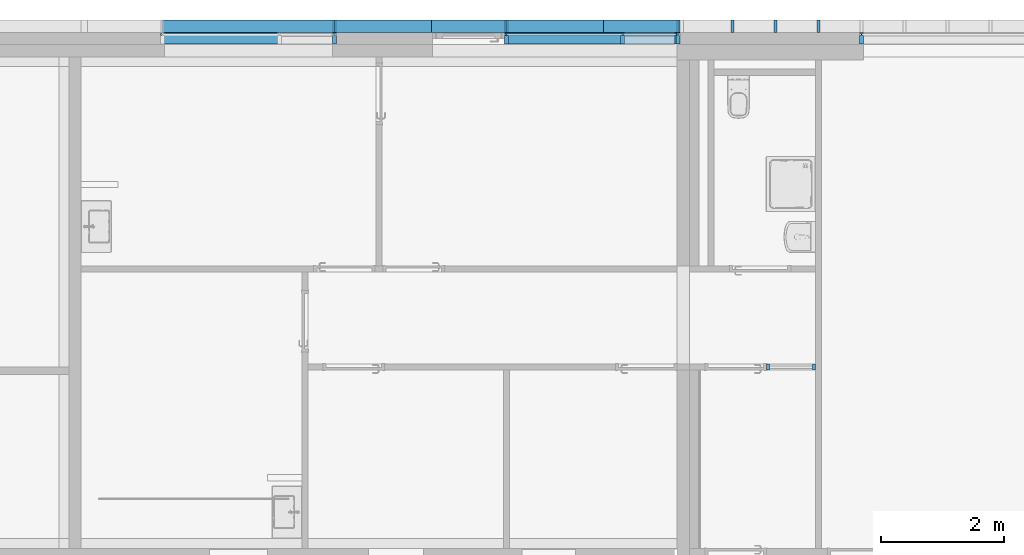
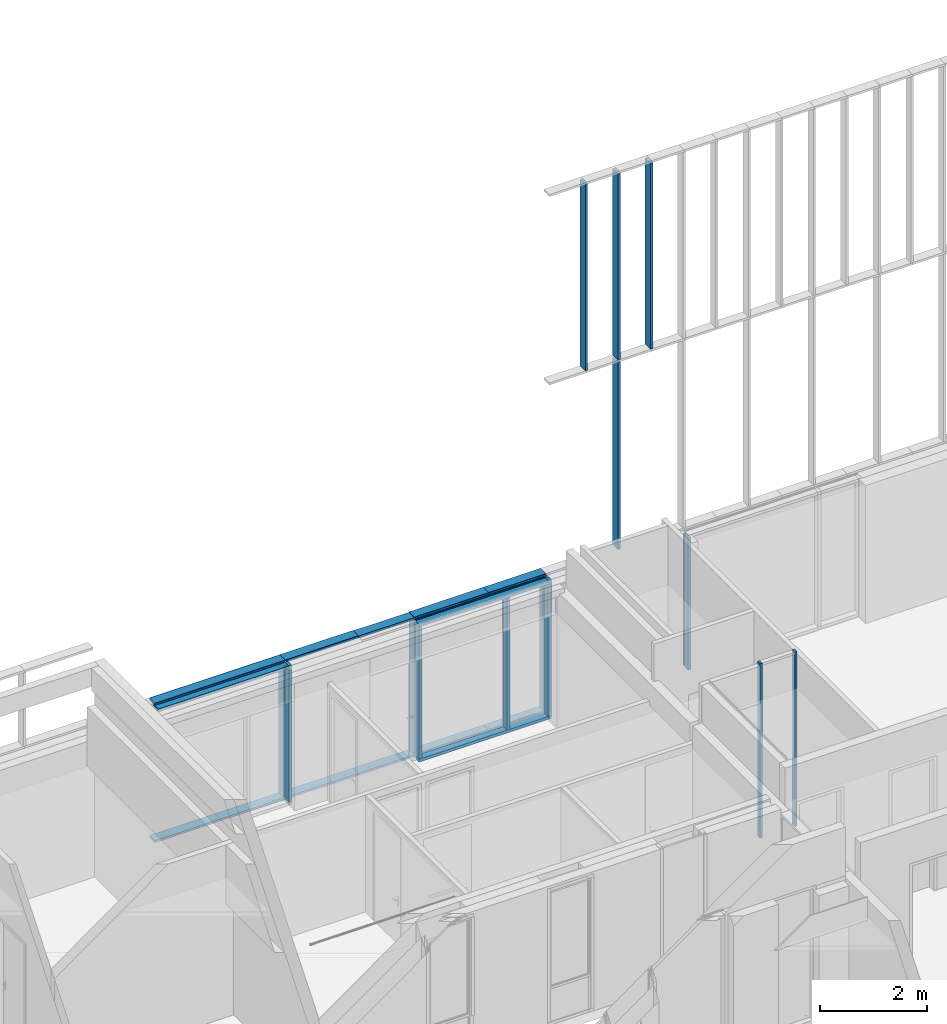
# One storey, part 16 of 240: 34 members, 5 elements without a shape of their own.
"""IFC2X3 building model written with IfcOpenShell, lengths in centimetres."""

from ifc_helpers import new_model, entity, si_unit, converted_unit, derived_unit, direction, frame, origin, origin_2d_with_axis, place, context, subcontext, project, spatial, polyline, rectangle, outline, extrude, source, transform, mapped, material, type_object, type_shapes, element, aggregate, save


model = new_model("IFC2X3")

# Units and contexts
model_context = context("Model", 3, precision=0.001, world=origin(), true_north=direction((6.12303176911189e-17, 1.0)))
body_context = subcontext(model_context, "Body", "Model", "MODEL_VIEW")
ifc_project = project(units=[si_unit("LENGTHUNIT", "METRE", prefix="CENTI"), si_unit("AREAUNIT", "SQUARE_METRE"), si_unit("VOLUMEUNIT", "CUBIC_METRE"), converted_unit("PLANEANGLEUNIT", "DEGREE", entity("IfcRatioMeasure", 0.0174532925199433), si_unit("PLANEANGLEUNIT", "RADIAN"), dimensions=[0, 0, 0, 0, 0, 0, 0]), si_unit("MASSUNIT", "GRAM", prefix="KILO"), derived_unit("MASSDENSITYUNIT", [(si_unit("MASSUNIT", "GRAM", prefix="KILO"), 1), (si_unit("LENGTHUNIT", "METRE"), -3)]), si_unit("TIMEUNIT", "SECOND"), si_unit("FREQUENCYUNIT", "HERTZ"), si_unit("THERMODYNAMICTEMPERATUREUNIT", "DEGREE_CELSIUS"), derived_unit("THERMALTRANSMITTANCEUNIT", [(si_unit("MASSUNIT", "GRAM", prefix="KILO"), 1), (si_unit("THERMODYNAMICTEMPERATUREUNIT", "KELVIN"), -1), (si_unit("TIMEUNIT", "SECOND"), -3)]), derived_unit("VOLUMETRICFLOWRATEUNIT", [(si_unit("LENGTHUNIT", "METRE"), 3), (si_unit("TIMEUNIT", "SECOND"), -1)]), si_unit("ELECTRICCURRENTUNIT", "AMPERE"), si_unit("ELECTRICVOLTAGEUNIT", "VOLT"), si_unit("POWERUNIT", "WATT"), si_unit("FORCEUNIT", "NEWTON", prefix="KILO"), si_unit("ILLUMINANCEUNIT", "LUX"), si_unit("LUMINOUSFLUXUNIT", "LUMEN"), si_unit("LUMINOUSINTENSITYUNIT", "CANDELA"), derived_unit("USERDEFINED", [(si_unit("MASSUNIT", "GRAM", prefix="KILO"), -1), (si_unit("LENGTHUNIT", "METRE"), -2), (si_unit("TIMEUNIT", "SECOND"), 3), (si_unit("LUMINOUSFLUXUNIT", "LUMEN"), 1)]), derived_unit("LINEARVELOCITYUNIT", [(si_unit("LENGTHUNIT", "METRE"), 1), (si_unit("TIMEUNIT", "SECOND"), -1)]), si_unit("PRESSUREUNIT", "PASCAL"), derived_unit("USERDEFINED", [(si_unit("LENGTHUNIT", "METRE"), -2), (si_unit("MASSUNIT", "GRAM", prefix="KILO"), 1), (si_unit("TIMEUNIT", "SECOND"), -2)])], contexts=[model_context])

# Site, building, storey
site_placement = place(None, frame((-2781.94577612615, 7442.24238424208, 0.0)))
site = spatial("IfcSite", under=ifc_project, at=site_placement, Name="Default", CompositionType="ELEMENT")
building_placement = place(site_placement, origin())
building = spatial("IfcBuilding", under=site, at=building_placement, CompositionType="ELEMENT")
storey_placement = place(building_placement, origin())
storey = spatial("IfcBuildingStorey", under=building, at=storey_placement, Name="N00 - COO", CompositionType="ELEMENT", Elevation=0.0)

# Curtain wall, member
curtain_wall_type_1 = type_object("IfcCurtainWallType", Name="Mur-rideau:07 - mur rideau trame 280 cm RDC maintenance", PredefinedType="NOTDEFINED")
curtain_wall_1_placement = place(building_placement, origin())
curtain_wall_1 = element("IfcCurtainWall", 1, at=curtain_wall_1_placement, inside=storey, type_object=curtain_wall_type_1, Name="Mur-rideau:07 - mur rideau trame 280 cm RDC maintenance", ObjectType="Mur-rideau:07 - mur rideau trame 280 cm RDC maintenance")
ifc_material_1 = material(Name="Aluminium")
member_type_1 = type_object("IfcMemberType", Name="150 x 25mm Détails", PredefinedType="MEMBER")
shared_shape_1 = source(origin(), body_context, "Body", "SweptSolid", [
    extrude(outline(polyline([(-13.3333333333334, -3.24999999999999), (0.166666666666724, -3.24999999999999), (0.166666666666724, -0.868749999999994), (3.66666666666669, -0.868749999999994), (3.66666666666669, -3.25), (5.6666666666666, -3.25), (5.6666666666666, 3.24999999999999), (3.66666666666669, 3.24999999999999), (3.66666666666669, 0.86874999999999), (0.166666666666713, 0.86874999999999), (0.166666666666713, 3.25000000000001), (-13.3333333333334, 3.25000000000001), (-13.3333333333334, -3.24999999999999)])), frame((-3.24999999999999, 1.96666666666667, -299.5), z_axis=(0.0, 0.0, 1.0), x_axis=(0.0, -1.0, 0.0)), (0.0, 0.0, 1.0), 299.5),
])
type_shapes(member_type_1, [shared_shape_1])
member_1_placement = place(building_placement, frame((-8990.24987766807, 26.2000000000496, 306.0), z_axis=(0.0, 0.0, 1.0), x_axis=(-1.0, 0.0, 0.0)))
member_1 = element("IfcMember", 2, at=member_1_placement, type_object=member_type_1, material=ifc_material_1, Name="Meneau rectangulaire:150 x 25mm Détails", ObjectType="Meneau rectangulaire:150 x 25mm Détails", context=body_context, shape_type="MappedRepresentation", body=[
    mapped(shared_shape_1, transform((0.0, 0.0, 0.0), scale=1.0)),
])

# Curtain wall, members
curtain_wall_type_2 = type_object("IfcCurtainWallType", Name="Mur-rideau:07 - mur rideau trame 280 cm", PredefinedType="NOTDEFINED")
curtain_wall_2_placement = place(building_placement, origin())
curtain_wall_2 = element("IfcCurtainWall", 3, at=curtain_wall_2_placement, inside=storey, type_object=curtain_wall_type_2, Name="Mur-rideau:07 - mur rideau trame 280 cm", ObjectType="Mur-rideau:07 - mur rideau trame 280 cm")
member_2_placement = place(building_placement, frame((-8431.24987766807, 26.3000000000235, 306.0), z_axis=(0.0, 0.0, 1.0), x_axis=(-1.0, 0.0, 0.0)))
member_2 = element("IfcMember", 4, at=member_2_placement, type_object=member_type_1, material=ifc_material_1, Name="Meneau rectangulaire:150 x 25mm Détails", ObjectType="Meneau rectangulaire:150 x 25mm Détails", context=body_context, shape_type="MappedRepresentation", body=[
    mapped(shared_shape_1, transform((0.0, 0.0, 0.0), scale=1.0)),
])
member_type_2 = type_object("IfcMemberType", Name="150 x 25mm Détails", PredefinedType="MEMBER")
shared_shape_2 = source(origin(), body_context, "Body", "SweptSolid", [
    extrude(outline(polyline([(-13.3333333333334, -3.25000000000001), (0.166666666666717, -3.25000000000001), (0.166666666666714, -0.86874999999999), (3.66666666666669, -0.86874999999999), (3.66666666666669, -3.24999999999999), (5.6666666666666, -3.24999999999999), (5.6666666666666, 3.25), (3.66666666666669, 3.25), (3.66666666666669, 0.868749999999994), (0.166666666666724, 0.868749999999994), (0.166666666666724, 3.25000000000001), (-13.3333333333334, 3.24999999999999), (-13.3333333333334, -3.25000000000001)])), frame((-3.24999999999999, 1.96666666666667, -299.5), z_axis=(0.0, 0.0, 1.0), x_axis=(0.0, -1.0, 0.0)), (0.0, 0.0, 1.0), 299.5),
])
type_shapes(member_type_2, [shared_shape_2])
member_3_placement = place(building_placement, frame((-8514.74987766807, 26.3000000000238, 6.49999999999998), z_axis=(0.0, 0.0, -1.0), x_axis=(1.0, 0.0, 0.0)))
member_3 = element("IfcMember", 5, at=member_3_placement, type_object=member_type_2, material=ifc_material_1, Name="Meneau rectangulaire:150 x 25mm Détails", ObjectType="Meneau rectangulaire:150 x 25mm Détails", context=body_context, shape_type="MappedRepresentation", body=[
    mapped(shared_shape_2, transform((0.0, 0.0, 0.0), scale=1.0)),
])

# Curtain wall, member
curtain_wall_3_placement = place(building_placement, origin())
curtain_wall_3 = element("IfcCurtainWall", 6, at=curtain_wall_3_placement, inside=storey, type_object=curtain_wall_type_2, Name="Mur-rideau:07 - mur rideau trame 280 cm", ObjectType="Mur-rideau:07 - mur rideau trame 280 cm")
member_type_3 = type_object("IfcMemberType", Name="150 x 25mm Détails", PredefinedType="MEMBER")
shared_shape_3 = source(origin(), body_context, "Body", "SweptSolid", [
    extrude(outline(polyline([(-13.3333333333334, -3.24999999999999), (0.166666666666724, -3.24999999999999), (0.166666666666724, -0.868749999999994), (3.66666666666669, -0.868749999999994), (3.66666666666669, -3.25), (5.6666666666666, -3.25), (5.6666666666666, 3.24999999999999), (3.66666666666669, 3.24999999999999), (3.66666666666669, 0.86874999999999), (0.166666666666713, 0.86874999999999), (0.166666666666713, 3.25000000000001), (-13.3333333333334, 3.25000000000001), (-13.3333333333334, -3.24999999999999)])), frame((-3.24999999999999, 1.96666666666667, -300.0), z_axis=(0.0, 0.0, 1.0), x_axis=(0.0, -1.0, 0.0)), (0.0, 0.0, 1.0), 300.000000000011),
])
type_shapes(member_type_3, [shared_shape_3])
member_4_placement = place(building_placement, frame((-8132.74987760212, 26.2000000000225, 306.5), z_axis=(0.0, 0.0, 1.0), x_axis=(-1.0, 0.0, 0.0)))
member_4 = element("IfcMember", 7, at=member_4_placement, type_object=member_type_3, material=ifc_material_1, Name="Meneau rectangulaire:150 x 25mm Détails", ObjectType="Meneau rectangulaire:150 x 25mm Détails", context=body_context, shape_type="MappedRepresentation", body=[
    mapped(shared_shape_3, transform((0.0, 0.0, 0.0), scale=1.0)),
])
aggregate(curtain_wall_3, [member_4])

# Member
member_5_placement = place(building_placement, frame((-8710.24987766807, 26.3000000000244, 306.5), z_axis=(0.0, 0.0, 1.0), x_axis=(-1.0, 0.0, 0.0)))
member_5 = element("IfcMember", 8, at=member_5_placement, type_object=member_type_3, material=ifc_material_1, Name="Meneau rectangulaire:150 x 25mm Détails", ObjectType="Meneau rectangulaire:150 x 25mm Détails", context=body_context, shape_type="MappedRepresentation", body=[
    mapped(shared_shape_3, transform((0.0, 0.0, 0.0), scale=1.0)),
])

member_type_4 = type_object("IfcMemberType", Name="150 x 25mm Détails", PredefinedType="MEMBER")
shared_shape_4 = source(origin(), body_context, "Body", "SweptSolid", [
    extrude(outline(polyline([(-13.3333333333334, -3.25000000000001), (0.166666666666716, -3.25000000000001), (0.166666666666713, -0.86874999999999), (3.66666666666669, -0.86874999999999), (3.66666666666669, -3.24999999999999), (5.66666666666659, -3.24999999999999), (5.66666666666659, 3.25), (3.66666666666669, 3.25), (3.66666666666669, 0.868749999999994), (0.166666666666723, 0.868749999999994), (0.166666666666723, 3.25000000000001), (-13.3333333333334, 3.24999999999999), (-13.3333333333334, -3.25000000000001)])), frame((0.0, 1.96666666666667, -300.0), z_axis=(0.0, 0.0, 1.0), x_axis=(0.0, -1.0, 0.0)), (0.0, 0.0, 1.0), 300.000000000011),
])
type_shapes(member_type_4, [shared_shape_4])
member_6_placement = place(building_placement, frame((-8430.24987763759, 26.3000000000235, 6.49999999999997), z_axis=(0.0, 0.0, -1.0), x_axis=(1.0, 0.0, 0.0)))
member_6 = element("IfcMember", 9, at=member_6_placement, type_object=member_type_4, material=ifc_material_1, Name="Meneau rectangulaire:150 x 25mm Détails", ObjectType="Meneau rectangulaire:150 x 25mm Détails", context=body_context, shape_type="MappedRepresentation", body=[
    mapped(shared_shape_4, transform((0.0, 0.0, 0.0), scale=1.0)),
])

member_type_5 = type_object("IfcMemberType", Name="150 x 25mm Détails", PredefinedType="MEMBER")
shared_shape_5 = source(origin(), body_context, "Body", "SweptSolid", [
    extrude(outline(polyline([(-13.3333333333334, -3.25000000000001), (0.166666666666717, -3.25000000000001), (0.166666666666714, -0.86874999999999), (3.66666666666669, -0.86874999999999), (3.66666666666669, -3.24999999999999), (5.6666666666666, -3.24999999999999), (5.6666666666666, 3.25), (3.66666666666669, 3.25), (3.66666666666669, 0.868749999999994), (0.166666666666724, 0.868749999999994), (0.166666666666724, 3.25000000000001), (-13.3333333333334, 3.24999999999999), (-13.3333333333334, -3.25000000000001)])), frame((-3.24999999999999, 1.96666666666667, -316.500000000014), z_axis=(0.0, 0.0, 1.0), x_axis=(0.0, -1.0, 0.0)), (0.0, 0.0, 1.0), 316.500000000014),
])
type_shapes(member_type_5, [shared_shape_5])
member_7_placement = place(building_placement, frame((-8983.74987766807, 26.2000000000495, 0.0), z_axis=(0.0, 0.0, -1.0), x_axis=(1.0, 0.0, 0.0)))
member_7 = element("IfcMember", 10, at=member_7_placement, type_object=member_type_5, material=ifc_material_1, Name="Meneau rectangulaire:150 x 25mm Détails", ObjectType="Meneau rectangulaire:150 x 25mm Détails", context=body_context, shape_type="MappedRepresentation", body=[
    mapped(shared_shape_5, transform((0.0, 0.0, 0.0), scale=1.0)),
])

member_type_6 = type_object("IfcMemberType", Name="150 x 25mm Détails", PredefinedType="MEMBER")
shared_shape_6 = source(origin(), body_context, "Body", "SweptSolid", [
    extrude(outline(polyline([(-13.3333333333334, -3.25000000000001), (0.166666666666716, -3.25000000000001), (0.166666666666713, -0.86874999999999), (3.66666666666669, -0.86874999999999), (3.66666666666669, -3.24999999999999), (5.66666666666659, -3.24999999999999), (5.66666666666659, 3.25), (3.66666666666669, 3.25), (3.66666666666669, 0.868749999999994), (0.166666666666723, 0.868749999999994), (0.166666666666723, 3.25000000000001), (-13.3333333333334, 3.24999999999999), (-13.3333333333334, -3.25000000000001)])), frame((-3.24999999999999, 1.96666666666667, -283.25000003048), z_axis=(0.0, 0.0, 1.0), x_axis=(0.0, -1.0, 0.0)), (0.0, 0.0, 1.0), 283.25000003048),
])
type_shapes(member_type_6, [shared_shape_6])
member_8_placement = place(building_placement, frame((-8986.99987763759, 26.2000000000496, 316.500000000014), z_axis=(1.0, 0.0, 0.0), x_axis=(0.0, 0.0, 1.0)))
member_8 = element("IfcMember", 11, at=member_8_placement, type_object=member_type_6, material=ifc_material_1, Name="Meneau rectangulaire:150 x 25mm Détails", ObjectType="Meneau rectangulaire:150 x 25mm Détails", context=body_context, shape_type="MappedRepresentation", body=[
    mapped(shared_shape_6, transform((0.0, 0.0, 0.0), scale=1.0)),
])

aggregate(curtain_wall_1, [member_7, member_1, member_8])

member_9_placement = place(building_placement, frame((-8426.99987763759, 26.3000000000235, 313.0), z_axis=(1.0, 0.0, 0.0), x_axis=(0.0, 0.0, 1.0)))
member_9 = element("IfcMember", 12, at=member_9_placement, type_object=member_type_6, material=ifc_material_1, Name="Meneau rectangulaire:150 x 25mm Détails", ObjectType="Meneau rectangulaire:150 x 25mm Détails", context=body_context, shape_type="MappedRepresentation", body=[
    mapped(shared_shape_6, transform((0.0, 0.0, 0.0), scale=1.0)),
])

# Curtain wall, members
curtain_wall_type_3 = type_object("IfcCurtainWallType", Name="Mur-rideau:Epines - 200x50mm", PredefinedType="NOTDEFINED")
curtain_wall_4_placement = place(building_placement, origin())
curtain_wall_4 = element("IfcCurtainWall", 13, at=curtain_wall_4_placement, inside=storey, type_object=curtain_wall_type_3, Name="Mur-rideau:Epines - 200x50mm", ObjectType="Mur-rideau:Epines - 200x50mm")
member_type_7 = type_object("IfcMemberType", Name="200x50 mm", PredefinedType="MEMBER")
shared_shape_7 = source(origin(), body_context, "Body", "SweptSolid", [
    extrude(rectangle(XDim=20.0, YDim=5.0, at=origin_2d_with_axis()), frame((0.0, 0.0, -423.0), z_axis=(0.0, 0.0, 1.0), x_axis=(0.0, -1.0, 0.0)), (0.0, 0.0, 1.0), 423.000000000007),
])
type_shapes(member_type_7, [shared_shape_7])
member_10_placement = place(building_placement, frame((-8269.4998776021, 40.0, 748.0), z_axis=(0.0, 0.0, -1.0), x_axis=(1.0, 0.0, 0.0)))
member_10 = element("IfcMember", 14, at=member_10_placement, type_object=member_type_7, material=ifc_material_1, Name="Meneau rectangulaire:200x50 mm", ObjectType="Meneau rectangulaire:200x50 mm", context=body_context, shape_type="MappedRepresentation", body=[
    mapped(shared_shape_7, transform((0.0, 0.0, 0.0), scale=1.0)),
])
member_11_placement = place(building_placement, frame((-8199.49987760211, 40.0, 748.0), z_axis=(0.0, 0.0, -1.0), x_axis=(1.0, 0.0, 0.0)))
member_11 = element("IfcMember", 15, at=member_11_placement, type_object=member_type_7, material=ifc_material_1, Name="Meneau rectangulaire:200x50 mm", ObjectType="Meneau rectangulaire:200x50 mm", context=body_context, shape_type="MappedRepresentation", body=[
    mapped(shared_shape_7, transform((0.0, 0.0, 0.0), scale=1.0)),
])
member_12_placement = place(building_placement, frame((-8339.4998776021, 40.0, 748.0), z_axis=(0.0, 0.0, -1.0), x_axis=(1.0, 0.0, 0.0)))
member_12 = element("IfcMember", 16, at=member_12_placement, type_object=member_type_7, material=ifc_material_1, Name="Meneau rectangulaire:200x50 mm", ObjectType="Meneau rectangulaire:200x50 mm", context=body_context, shape_type="MappedRepresentation", body=[
    mapped(shared_shape_7, transform((0.0, 0.0, 0.0), scale=1.0)),
])
member_type_8 = type_object("IfcMemberType", Name="200x50 mm", PredefinedType="MEMBER")
shared_shape_8 = source(origin(), body_context, "Body", "SweptSolid", [
    extrude(rectangle(XDim=20.0, YDim=5.0, at=origin_2d_with_axis()), frame((0.0, 0.0, -425.5), z_axis=(0.0, 0.0, 1.0), x_axis=(0.0, -1.0, 0.0)), (0.0, 0.0, 1.0), 425.5),
])
type_shapes(member_type_8, [shared_shape_8])
member_13_placement = place(building_placement, frame((-8269.4998776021, 40.0, 317.5), z_axis=(0.0, 0.0, -1.0), x_axis=(1.0, 0.0, 0.0)))
member_13 = element("IfcMember", 17, at=member_13_placement, type_object=member_type_8, material=ifc_material_1, Name="Meneau rectangulaire:200x50 mm", ObjectType="Meneau rectangulaire:200x50 mm", context=body_context, shape_type="MappedRepresentation", body=[
    mapped(shared_shape_8, transform((0.0, 0.0, 0.0), scale=1.0)),
])
member_type_9 = type_object("IfcMemberType", Name="200x50 mm", PredefinedType="MEMBER")
shared_shape_9 = source(origin(), body_context, "Body", "SweptSolid", [
    extrude(rectangle(XDim=20.0, YDim=5.0, at=origin_2d_with_axis()), frame((0.0, 0.0, -307.5), z_axis=(0.0, 0.0, 1.0), x_axis=(0.0, -1.0, 0.0)), (0.0, 0.0, 1.0), 307.5),
])
type_shapes(member_type_9, [shared_shape_9])
member_14_placement = place(building_placement, frame((-8426.99987766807, 40.0, 5.0), z_axis=(0.0, 0.0, -1.0), x_axis=(1.0, 0.0, 0.0)))
member_14 = element("IfcMember", 18, at=member_14_placement, type_object=member_type_9, material=ifc_material_1, Name="Meneau rectangulaire:200x50 mm", ObjectType="Meneau rectangulaire:200x50 mm", context=body_context, shape_type="MappedRepresentation", body=[
    mapped(shared_shape_9, transform((0.0, 0.0, 0.0), scale=1.0)),
])
member_15_placement = place(building_placement, frame((-8706.99987766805, 40.0, 5.0), z_axis=(0.0, 0.0, -1.0), x_axis=(1.0, 0.0, 0.0)))
member_15 = element("IfcMember", 19, at=member_15_placement, type_object=member_type_9, material=ifc_material_1, Name="Meneau rectangulaire:200x50 mm", ObjectType="Meneau rectangulaire:200x50 mm", context=body_context, shape_type="MappedRepresentation", body=[
    mapped(shared_shape_9, transform((0.0, 0.0, 0.0), scale=1.0)),
])
member_16_placement = place(building_placement, frame((-8986.99987766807, 40.0, 5.0), z_axis=(0.0, 0.0, -1.0), x_axis=(1.0, 0.0, 0.0)))
member_16 = element("IfcMember", 20, at=member_16_placement, type_object=member_type_9, material=ifc_material_1, Name="Meneau rectangulaire:200x50 mm", ObjectType="Meneau rectangulaire:200x50 mm", context=body_context, shape_type="MappedRepresentation", body=[
    mapped(shared_shape_9, transform((0.0, 0.0, 0.0), scale=1.0)),
])
member_type_10 = type_object("IfcMemberType", Name="200x50 mm", PredefinedType="MEMBER")
shared_shape_10 = source(origin(), body_context, "Body", "SweptSolid", [
    extrude(rectangle(XDim=20.0, YDim=5.0, at=origin_2d_with_axis()), frame((-2.5, 0.0, -157.50000006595), z_axis=(0.0, 0.0, 1.0), x_axis=(0.0, -1.0, 0.0)), (0.0, 0.0, 1.0), 157.50000006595),
])
type_shapes(member_type_10, [shared_shape_10])
member_17_placement = place(building_placement, frame((-8986.99987766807, 40.0, 0.0), z_axis=(-1.0, 0.0, 0.0), x_axis=(0.0, 0.0, -1.0)))
member_17 = element("IfcMember", 21, at=member_17_placement, type_object=member_type_10, material=ifc_material_1, Name="Meneau rectangulaire:200x50 mm", ObjectType="Meneau rectangulaire:200x50 mm", context=body_context, shape_type="MappedRepresentation", body=[
    mapped(shared_shape_10, transform((0.0, 0.0, 0.0), scale=1.0)),
])
member_18_placement = place(building_placement, frame((-8706.99987766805, 40.0, 0.0), z_axis=(-1.0, 0.0, 0.0), x_axis=(0.0, 0.0, -1.0)))
member_18 = element("IfcMember", 22, at=member_18_placement, type_object=member_type_10, material=ifc_material_1, Name="Meneau rectangulaire:200x50 mm", ObjectType="Meneau rectangulaire:200x50 mm", context=body_context, shape_type="MappedRepresentation", body=[
    mapped(shared_shape_10, transform((0.0, 0.0, 0.0), scale=1.0)),
])
member_type_11 = type_object("IfcMemberType", Name="200x50 mm", PredefinedType="MEMBER")
shared_shape_11 = source(origin(), body_context, "Body", "SweptSolid", [
    extrude(rectangle(XDim=20.0, YDim=5.0, at=origin_2d_with_axis()), frame((-2.5, 0.0, -122.499999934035), z_axis=(0.0, 0.0, 1.0), x_axis=(0.0, -1.0, 0.0)), (0.0, 0.0, 1.0), 122.499999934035),
])
type_shapes(member_type_11, [shared_shape_11])
member_19_placement = place(building_placement, frame((-8706.99987766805, 40.0, 316.500000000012), z_axis=(1.0, 0.0, 0.0), x_axis=(0.0, 0.0, 1.0)))
member_19 = element("IfcMember", 23, at=member_19_placement, type_object=member_type_11, material=ifc_material_1, Name="Meneau rectangulaire:200x50 mm", ObjectType="Meneau rectangulaire:200x50 mm", context=body_context, shape_type="MappedRepresentation", body=[
    mapped(shared_shape_11, transform((0.0, 0.0, 0.0), scale=1.0)),
])
member_20_placement = place(building_placement, frame((-8426.99987766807, 40.0, 316.500000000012), z_axis=(1.0, 0.0, 0.0), x_axis=(0.0, 0.0, 1.0)))
member_20 = element("IfcMember", 24, at=member_20_placement, type_object=member_type_11, material=ifc_material_1, Name="Meneau rectangulaire:200x50 mm", ObjectType="Meneau rectangulaire:200x50 mm", context=body_context, shape_type="MappedRepresentation", body=[
    mapped(shared_shape_11, transform((0.0, 0.0, 0.0), scale=1.0)),
])
member_type_12 = type_object("IfcMemberType", Name="200x50 mm", PredefinedType="MEMBER")
shared_shape_12 = source(origin(), body_context, "Body", "SweptSolid", [
    extrude(rectangle(XDim=20.0, YDim=5.0, at=origin_2d_with_axis()), frame((-2.5, 0.0, -280.0), z_axis=(0.0, 0.0, 1.0), x_axis=(0.0, -1.0, 0.0)), (0.0, 0.0, 1.0), 280.0),
])
type_shapes(member_type_12, [shared_shape_12])
member_21_placement = place(building_placement, frame((-9266.99987766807, 40.0, 0.0), z_axis=(-1.0, 0.0, 0.0), x_axis=(0.0, 0.0, -1.0)))
member_21 = element("IfcMember", 25, at=member_21_placement, type_object=member_type_12, material=ifc_material_1, Name="Meneau rectangulaire:200x50 mm", ObjectType="Meneau rectangulaire:200x50 mm", context=body_context, shape_type="MappedRepresentation", body=[
    mapped(shared_shape_12, transform((0.0, 0.0, 0.0), scale=1.0)),
])
member_type_13 = type_object("IfcMemberType", Name="200x50 mm", PredefinedType="MEMBER")
shared_shape_13 = source(origin(), body_context, "Body", "SweptSolid", [
    extrude(rectangle(XDim=20.0, YDim=5.0, at=origin_2d_with_axis()), frame((0.0, 0.0, -280.0), z_axis=(0.0, 0.0, 1.0), x_axis=(0.0, -1.0, 0.0)), (0.0, 0.0, 1.0), 280.0),
])
type_shapes(member_type_13, [shared_shape_13])
member_22_placement = place(building_placement, frame((-8986.99987766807, 40.0, 315.0), z_axis=(1.0, 0.0, 0.0), x_axis=(0.0, 0.0, 1.0)))
member_22 = element("IfcMember", 26, at=member_22_placement, type_object=member_type_13, material=ifc_material_1, Name="Meneau rectangulaire:200x50 mm", ObjectType="Meneau rectangulaire:200x50 mm", context=body_context, shape_type="MappedRepresentation", body=[
    mapped(shared_shape_13, transform((0.0, 0.0, 0.0), scale=1.0)),
])
member_type_14 = type_object("IfcMemberType", Name="200x50 mm", PredefinedType="MEMBER")
shared_shape_14 = source(origin(), body_context, "Body", "SweptSolid", [
    extrude(rectangle(XDim=20.0, YDim=5.0, at=origin_2d_with_axis()), frame((-2.5, 0.0, -280.0), z_axis=(0.0, 0.0, 1.0), x_axis=(0.0, -1.0, 0.0)), (0.0, 0.0, 1.0), 280.0),
])
type_shapes(member_type_14, [shared_shape_14])
member_23_placement = place(building_placement, frame((-8986.99987766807, 40.0, 316.500000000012), z_axis=(1.0, 0.0, 0.0), x_axis=(0.0, 0.0, 1.0)))
member_23 = element("IfcMember", 27, at=member_23_placement, type_object=member_type_14, material=ifc_material_1, Name="Meneau rectangulaire:200x50 mm", ObjectType="Meneau rectangulaire:200x50 mm", context=body_context, shape_type="MappedRepresentation", body=[
    mapped(shared_shape_14, transform((0.0, 0.0, 0.0), scale=1.0)),
])
member_type_15 = type_object("IfcMemberType", Name="200x50 mm", PredefinedType="MEMBER")
shared_shape_15 = source(origin(), body_context, "Body", "SweptSolid", [
    extrude(rectangle(XDim=20.0, YDim=5.0, at=origin_2d_with_axis()), frame((0.0, 0.0, -157.500000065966), z_axis=(0.0, 0.0, 1.0), x_axis=(0.0, -1.0, 0.0)), (0.0, 0.0, 1.0), 157.500000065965),
])
type_shapes(member_type_15, [shared_shape_15])
member_24_placement = place(building_placement, frame((-8829.4998776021, 40.0, 315.0), z_axis=(1.0, 0.0, 0.0), x_axis=(0.0, 0.0, 1.0)))
member_24 = element("IfcMember", 28, at=member_24_placement, type_object=member_type_15, material=ifc_material_1, Name="Meneau rectangulaire:200x50 mm", ObjectType="Meneau rectangulaire:200x50 mm", context=body_context, shape_type="MappedRepresentation", body=[
    mapped(shared_shape_15, transform((0.0, 0.0, 0.0), scale=1.0)),
])
member_type_16 = type_object("IfcMemberType", Name="200x50 mm", PredefinedType="MEMBER")
shared_shape_16 = source(origin(), body_context, "Body", "SweptSolid", [
    extrude(rectangle(XDim=20.0, YDim=5.0, at=origin_2d_with_axis()), frame((0.0, 0.0, -160.0), z_axis=(0.0, 0.0, 1.0), x_axis=(0.0, -1.0, 0.0)), (0.0, 0.0, 1.0), 160.000000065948),
])
type_shapes(member_type_16, [shared_shape_16])
member_25_placement = place(building_placement, frame((-8549.4998776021, 40.0, 315.0), z_axis=(1.0, 0.0, 0.0), x_axis=(0.0, 0.0, 1.0)))
member_25 = element("IfcMember", 29, at=member_25_placement, type_object=member_type_16, material=ifc_material_1, Name="Meneau rectangulaire:200x50 mm", ObjectType="Meneau rectangulaire:200x50 mm", context=body_context, shape_type="MappedRepresentation", body=[
    mapped(shared_shape_16, transform((0.0, 0.0, 0.0), scale=1.0)),
])
member_type_17 = type_object("IfcMemberType", Name="200x50 mm", PredefinedType="MEMBER")
shared_shape_17 = source(origin(), body_context, "Body", "SweptSolid", [
    extrude(rectangle(XDim=20.0, YDim=5.0, at=origin_2d_with_axis()), frame((-2.5, 0.0, -157.500000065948), z_axis=(0.0, 0.0, 1.0), x_axis=(0.0, -1.0, 0.0)), (0.0, 0.0, 1.0), 157.500000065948),
])
type_shapes(member_type_17, [shared_shape_17])
member_26_placement = place(building_placement, frame((-8549.4998776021, 40.0, 316.500000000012), z_axis=(1.0, 0.0, 0.0), x_axis=(0.0, 0.0, 1.0)))
member_26 = element("IfcMember", 30, at=member_26_placement, type_object=member_type_17, material=ifc_material_1, Name="Meneau rectangulaire:200x50 mm", ObjectType="Meneau rectangulaire:200x50 mm", context=body_context, shape_type="MappedRepresentation", body=[
    mapped(shared_shape_17, transform((0.0, 0.0, 0.0), scale=1.0)),
])
member_27_placement = place(building_placement, frame((-8829.4998776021, 40.0, 316.500000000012), z_axis=(1.0, 0.0, 0.0), x_axis=(0.0, 0.0, 1.0)))
member_27 = element("IfcMember", 31, at=member_27_placement, type_object=member_type_17, material=ifc_material_1, Name="Meneau rectangulaire:200x50 mm", ObjectType="Meneau rectangulaire:200x50 mm", context=body_context, shape_type="MappedRepresentation", body=[
    mapped(shared_shape_17, transform((0.0, 0.0, 0.0), scale=1.0)),
])
member_type_18 = type_object("IfcMemberType", Name="200x50 mm", PredefinedType="MEMBER")
shared_shape_18 = source(origin(), body_context, "Body", "SweptSolid", [
    extrude(rectangle(XDim=20.0, YDim=5.0, at=origin_2d_with_axis()), frame((-2.5, 0.0, -122.499999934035), z_axis=(0.0, 0.0, 1.0), x_axis=(0.0, -1.0, 0.0)), (0.0, 0.0, 1.0), 122.499999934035),
])
type_shapes(member_type_18, [shared_shape_18])
member_28_placement = place(building_placement, frame((-8549.4998776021, 40.0, 0.0), z_axis=(-1.0, 0.0, 0.0), x_axis=(0.0, 0.0, -1.0)))
member_28 = element("IfcMember", 32, at=member_28_placement, type_object=member_type_18, material=ifc_material_1, Name="Meneau rectangulaire:200x50 mm", ObjectType="Meneau rectangulaire:200x50 mm", context=body_context, shape_type="MappedRepresentation", body=[
    mapped(shared_shape_18, transform((0.0, 0.0, 0.0), scale=1.0)),
])
member_29_placement = place(building_placement, frame((-8829.4998776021, 40.0, 0.0), z_axis=(-1.0, 0.0, 0.0), x_axis=(0.0, 0.0, -1.0)))
member_29 = element("IfcMember", 33, at=member_29_placement, type_object=member_type_18, material=ifc_material_1, Name="Meneau rectangulaire:200x50 mm", ObjectType="Meneau rectangulaire:200x50 mm", context=body_context, shape_type="MappedRepresentation", body=[
    mapped(shared_shape_18, transform((0.0, 0.0, 0.0), scale=1.0)),
])
member_type_19 = type_object("IfcMemberType", Name="200x50 mm", PredefinedType="MEMBER")
shared_shape_19 = source(origin(), body_context, "Body", "SweptSolid", [
    extrude(rectangle(XDim=20.0, YDim=5.0, at=origin_2d_with_axis()), frame((0.0, 0.0, -122.499999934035), z_axis=(0.0, 0.0, 1.0), x_axis=(0.0, -1.0, 0.0)), (0.0, 0.0, 1.0), 122.499999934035),
])
type_shapes(member_type_19, [shared_shape_19])
member_30_placement = place(building_placement, frame((-8426.99987766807, 40.0, 315.0), z_axis=(1.0, 0.0, 0.0), x_axis=(0.0, 0.0, 1.0)))
member_30 = element("IfcMember", 34, at=member_30_placement, type_object=member_type_19, material=ifc_material_1, Name="Meneau rectangulaire:200x50 mm", ObjectType="Meneau rectangulaire:200x50 mm", context=body_context, shape_type="MappedRepresentation", body=[
    mapped(shared_shape_19, transform((0.0, 0.0, 0.0), scale=1.0)),
])
aggregate(curtain_wall_4, [member_13, member_10, member_11, member_12, member_21, member_22, member_23, member_17, member_24, member_19, member_18, member_25, member_14, member_15, member_16, member_26, member_28, member_30, member_27, member_29, member_20])

curtain_wall_type_4 = type_object("IfcCurtainWallType", PredefinedType="NOTDEFINED")
curtain_wall_5_placement = place(building_placement, origin())
curtain_wall_5 = element("IfcCurtainWall", 35, at=curtain_wall_5_placement, inside=storey, type_object=curtain_wall_type_4)
ifc_material_2 = material(Name="Plastique, blanc opaque")
member_type_20 = type_object("IfcMemberType", Name="100 x 50mm", PredefinedType="MEMBER")
shared_shape_20 = source(origin(), body_context, "Body", "SweptSolid", [
    extrude(rectangle(XDim=10.0, YDim=5.0, at=origin_2d_with_axis()), frame((-2.5, 0.0, -396.0), z_axis=(0.0, 0.0, 1.0), x_axis=(0.0, -1.0, 0.0)), (0.0, 0.0, 1.0), 396.0),
])
type_shapes(member_type_20, [shared_shape_20])
member_31_placement = place(building_placement, frame((-8204.49987760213, -515.0, 0.0), z_axis=(0.0, 0.0, -1.0), x_axis=(1.0, 0.0, 0.0)))
member_31 = element("IfcMember", 36, at=member_31_placement, type_object=member_type_20, material=ifc_material_2, Name="Meneau rectangulaire:100 x 50mm", ObjectType="Meneau rectangulaire:100 x 50mm", context=body_context, shape_type="MappedRepresentation", body=[
    mapped(shared_shape_20, transform((0.0, 0.0, 0.0), scale=1.0)),
])
member_type_21 = type_object("IfcMemberType", Name="100 x 50mm", PredefinedType="MEMBER")
shared_shape_21 = source(origin(), body_context, "Body", "SweptSolid", [
    extrude(rectangle(XDim=10.0, YDim=5.0, at=origin_2d_with_axis()), frame((-2.5, 0.0, -396.0), z_axis=(0.0, 0.0, 1.0), x_axis=(0.0, -1.0, 0.0)), (0.0, 0.0, 1.0), 396.0),
])
type_shapes(member_type_21, [shared_shape_21])
member_32_placement = place(building_placement, frame((-8284.19987766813, -515.0, 396.0), z_axis=(0.0, 0.0, 1.0), x_axis=(-1.0, 0.0, 0.0)))
member_32 = element("IfcMember", 37, at=member_32_placement, type_object=member_type_21, material=ifc_material_2, Name="Meneau rectangulaire:100 x 50mm", ObjectType="Meneau rectangulaire:100 x 50mm", context=body_context, shape_type="MappedRepresentation", body=[
    mapped(shared_shape_21, transform((0.0, 0.0, 0.0), scale=1.0)),
])
aggregate(curtain_wall_5, [member_31, member_32])

# Member
member_type_22 = type_object("IfcMemberType", Name="150 x 25mm Détails", PredefinedType="MEMBER")
shared_shape_22 = source(origin(), body_context, "Body", "SweptSolid", [
    extrude(outline(polyline([(-13.3333333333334, -3.24999999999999), (0.166666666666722, -3.24999999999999), (0.166666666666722, -0.868749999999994), (3.66666666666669, -0.868749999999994), (3.66666666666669, -3.25), (5.66666666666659, -3.25), (5.66666666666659, 3.24999999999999), (3.66666666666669, 3.24999999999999), (3.66666666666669, 0.86874999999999), (0.166666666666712, 0.86874999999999), (0.166666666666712, 3.25000000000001), (-13.3333333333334, 3.25000000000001), (-13.3333333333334, -3.24999999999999)])), frame((-3.24999999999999, 1.96666666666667, -283.25000003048), z_axis=(0.0, 0.0, 1.0), x_axis=(0.0, -1.0, 0.0)), (0.0, 0.0, 1.0), 283.25000003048),
])
type_shapes(member_type_22, [shared_shape_22])
member_33_placement = place(building_placement, frame((-8710.24987766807, 26.3000000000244, 0.0), z_axis=(-1.0, 0.0, 0.0), x_axis=(0.0, 0.0, -1.0)))
member_33 = element("IfcMember", 38, at=member_33_placement, type_object=member_type_22, material=ifc_material_1, Name="Meneau rectangulaire:150 x 25mm Détails", ObjectType="Meneau rectangulaire:150 x 25mm Détails", context=body_context, shape_type="MappedRepresentation", body=[
    mapped(shared_shape_22, transform((0.0, 0.0, 0.0), scale=1.0)),
])

member_type_23 = type_object("IfcMemberType", Name="150 x 25mm Détails", PredefinedType="MEMBER")
shared_shape_23 = source(origin(), body_context, "Body", "SweptSolid", [
    extrude(outline(polyline([(-13.3333333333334, -3.25000000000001), (0.166666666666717, -3.25000000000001), (0.166666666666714, -0.86874999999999), (3.66666666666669, -0.86874999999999), (3.66666666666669, -3.24999999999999), (5.6666666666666, -3.24999999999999), (5.6666666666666, 3.25), (3.66666666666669, 3.25), (3.66666666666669, 0.868749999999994), (0.166666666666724, 0.868749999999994), (0.166666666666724, 3.25000000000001), (-13.3333333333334, 3.24999999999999), (-13.3333333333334, -3.25000000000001)])), frame((0.0, 1.96666666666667, -313.0), z_axis=(0.0, 0.0, 1.0), x_axis=(0.0, -1.0, 0.0)), (0.0, 0.0, 1.0), 313.0),
])
type_shapes(member_type_23, [shared_shape_23])
member_34_placement = place(building_placement, frame((-8427.99987766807, 26.3000000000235, 0.0), z_axis=(0.0, 0.0, -1.0), x_axis=(1.0, 0.0, 0.0)))
member_34 = element("IfcMember", 39, at=member_34_placement, type_object=member_type_23, material=ifc_material_1, Name="Meneau rectangulaire:150 x 25mm Détails", ObjectType="Meneau rectangulaire:150 x 25mm Détails", context=body_context, shape_type="MappedRepresentation", body=[
    mapped(shared_shape_23, transform((0.0, 0.0, 0.0), scale=1.0)),
])

aggregate(curtain_wall_2, [member_33, member_5, member_34, member_2, member_3, member_6, member_9])

save(model, "model.ifc")
